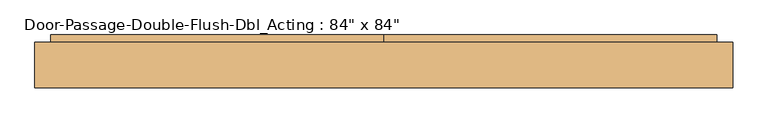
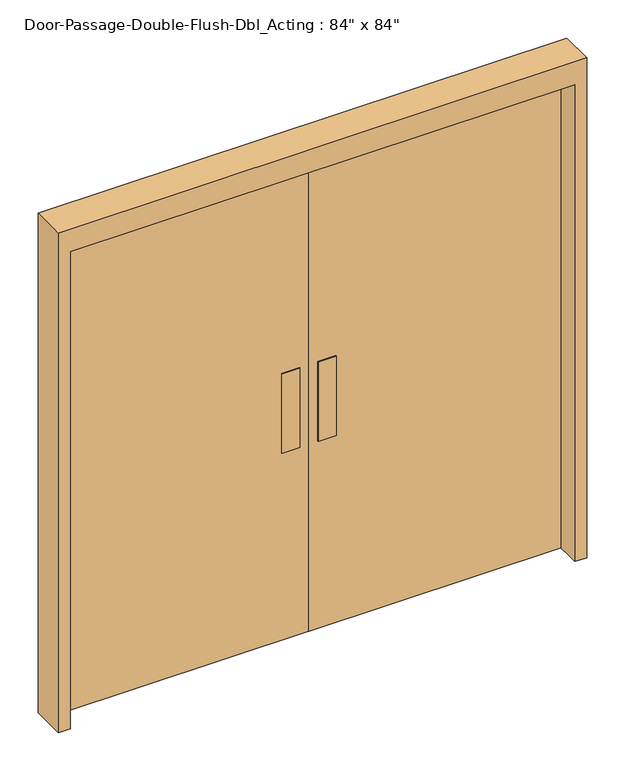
"""IFC4 building model written with IfcOpenShell, lengths in millimetres: door geometry."""

from ifc_helpers import new_model, si_unit, frame, origin, origin_with_axes, place, context, project, spatial, polyline, outline, extrude, source, transform, mapped, element, save


def door_b3a27a16(model_context):
    return source(origin(), model_context, "Body", "SweptSolid", [
        extrude(outline(polyline([(-38.1, 11.1125), (-114.3, 11.1125), (-114.3, 14.2875), (-38.1, 14.2875), (-38.1, 11.1125)])), frame((0.0, 0.0, 838.2), z_axis=(0.0, 0.0, 1.0), x_axis=(1.0, 0.0, 0.0)), (0.0, 0.0, 1.0), 355.6),
        extrude(outline(polyline([(-38.1, 61.9125), (-38.1, 58.7375), (-114.3, 58.7375), (-114.3, 61.9125), (-38.1, 61.9125)])), frame((0.0, 0.0, 838.2), z_axis=(0.0, 0.0, 1.0), x_axis=(1.0, 0.0, 0.0)), (0.0, 0.0, 1.0), 355.6),
        extrude(outline(polyline([(38.1, 11.1125), (38.1, 14.2875), (114.3, 14.2875), (114.3, 11.1125), (38.1, 11.1125)])), frame((0.0, 0.0, 838.2), z_axis=(0.0, 0.0, 1.0), x_axis=(1.0, 0.0, 0.0)), (0.0, 0.0, 1.0), 355.6),
        extrude(outline(polyline([(38.1, 61.9125), (114.3, 61.9125), (114.3, 58.7375), (38.1, 58.7375), (38.1, 61.9125)])), frame((0.0, 0.0, 838.2), z_axis=(0.0, 0.0, 1.0), x_axis=(1.0, 0.0, 0.0)), (0.0, 0.0, 1.0), 355.6),
        extrude(outline(polyline([(0.0, 1066.8), (0.0, 1117.6), (2235.2, 1117.6), (2235.2, -1117.6), (0.0, -1117.6), (0.0, -1066.8), (2133.6, -1066.8), (2133.6, 1066.8), (0.0, 1066.8)])), frame((0.0, -87.3125, 0.0), z_axis=(0.0, 1.0, 0.0), x_axis=(0.0, 0.0, 1.0)), (0.0, 0.0, 1.0), 146.05),
        extrude(outline(polyline([(1066.8, 14.2875), (1.5875, 14.2875), (1.5875, 82.55), (1066.8, 82.55), (1066.8, 14.2875)])), origin_with_axes(), (0.0, 0.0, 1.0), 2133.6),
        extrude(outline(polyline([(-1.5875, 14.2875), (-1066.8, 14.2875), (-1066.8, 82.55), (-1.5875, 82.55), (-1.5875, 14.2875)])), origin_with_axes(), (0.0, 0.0, 1.0), 2133.6),
    ])


if __name__ == "__main__":
    model = new_model("IFC4")
    model_context = context("Model", 3, world=origin())
    ifc_project = project(units=[si_unit("LENGTHUNIT", "METRE", prefix="MILLI")], contexts=[model_context])
    site = spatial("IfcSite", under=ifc_project)
    building = spatial("IfcBuilding", under=site)
    placement = place(None, origin())
    door_shape = door_b3a27a16(model_context)
    element("IfcDoor", 1, ObjectType="Door-Passage-Double-Flush-Dbl_Acting : 84\" x 84\"", at=placement, inside=building, context=model_context, shape_type="MappedRepresentation", body=[
        mapped(door_shape, transform((0.0, 0.0, 0.0), x_axis=(1.0, 0.0, 0.0), y_axis=(0.0, 1.0, 0.0), z_axis=(0.0, 0.0, 1.0))),
    ])
    save(model, "model.ifc")
